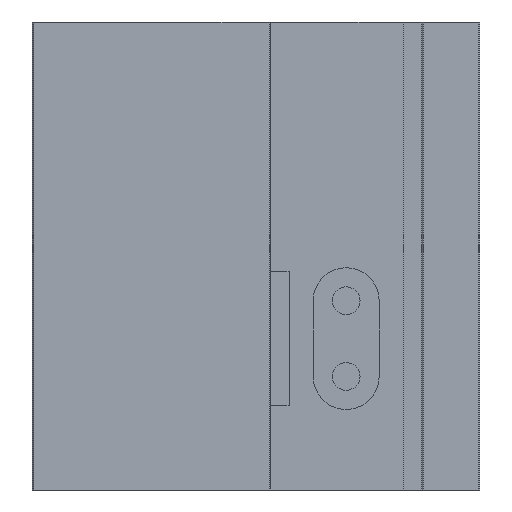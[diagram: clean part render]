
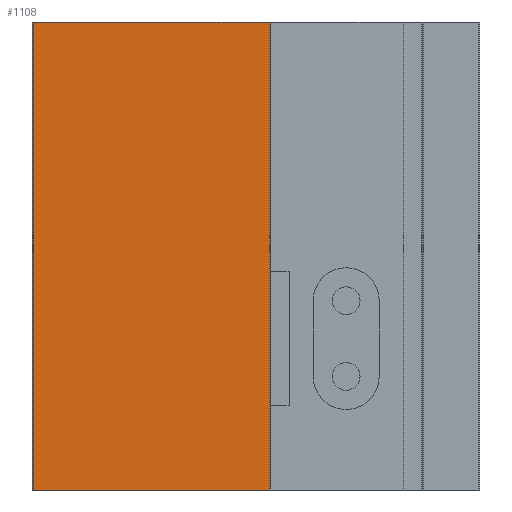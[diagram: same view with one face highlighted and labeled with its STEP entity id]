
A CAD part, front view. The second image highlights one B-rep face of the part: STEP entity #1108.
In plain terms, the highlighted planar face has unit normal (0, -1, 0).
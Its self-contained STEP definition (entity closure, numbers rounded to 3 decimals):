
#686 = VERTEX_POINT( '', #1901 );
#940 = VERTEX_POINT( '', #2176 );
#958 = EDGE_CURVE( '', #686, #1190, #2194, .T. );
#1002 = EDGE_CURVE( '', #940, #686, #2248, .T. );
#1108 = ADVANCED_FACE( '', ( #2374 ), #2375, .T. );
#1190 = VERTEX_POINT( '', #2466 );
#1192 = EDGE_CURVE( '', #940, #1786, #2468, .T. );
#1302 = EDGE_CURVE( '', #1786, #1190, #2592, .T. );
#1786 = VERTEX_POINT( '', #3130 );
#1901 = CARTESIAN_POINT( '', ( -22.7, -5., -34. ) );
#2176 = CARTESIAN_POINT( '', ( -22.7, -5., 0. ) );
#2194 = LINE( '', #3690, #3691 );
#2248 = LINE( '', #3762, #3763 );
#2374 = FACE_OUTER_BOUND( '', #3917, .T. );
#2375 = PLANE( '', #3918 );
#2466 = CARTESIAN_POINT( '', ( -5.6, -5., -34. ) );
#2468 = LINE( '', #4037, #4038 );
#2592 = LINE( '', #4201, #4202 );
#3130 = CARTESIAN_POINT( '', ( -5.6, -5., 0. ) );
#3690 = CARTESIAN_POINT( '', ( -22.7, -5., -34. ) );
#3691 = VECTOR( '', #5372, 1. );
#3762 = CARTESIAN_POINT( '', ( -22.7, -5., 0. ) );
#3763 = VECTOR( '', #5470, 1. );
#3917 = EDGE_LOOP( '', ( #5661, #5662, #5663, #5664 ) );
#3918 = AXIS2_PLACEMENT_3D( '', #5665, #5666, #5667 );
#4037 = CARTESIAN_POINT( '', ( -22.7, -5., 0. ) );
#4038 = VECTOR( '', #5761, 1. );
#4201 = CARTESIAN_POINT( '', ( -5.6, -5., 0. ) );
#4202 = VECTOR( '', #5887, 1. );
#5372 = DIRECTION( '', ( 1., 0., 0. ) );
#5470 = DIRECTION( '', ( 0., 0., -1. ) );
#5661 = ORIENTED_EDGE( '', *, *, #958, .T. );
#5662 = ORIENTED_EDGE( '', *, *, #1302, .F. );
#5663 = ORIENTED_EDGE( '', *, *, #1192, .F. );
#5664 = ORIENTED_EDGE( '', *, *, #1002, .T. );
#5665 = CARTESIAN_POINT( '', ( -22.7, -5., 0. ) );
#5666 = DIRECTION( '', ( 0., -1., 0. ) );
#5667 = DIRECTION( '', ( -1., 0., 0. ) );
#5761 = DIRECTION( '', ( 1., 0., 0. ) );
#5887 = DIRECTION( '', ( 0., 0., -1. ) );
